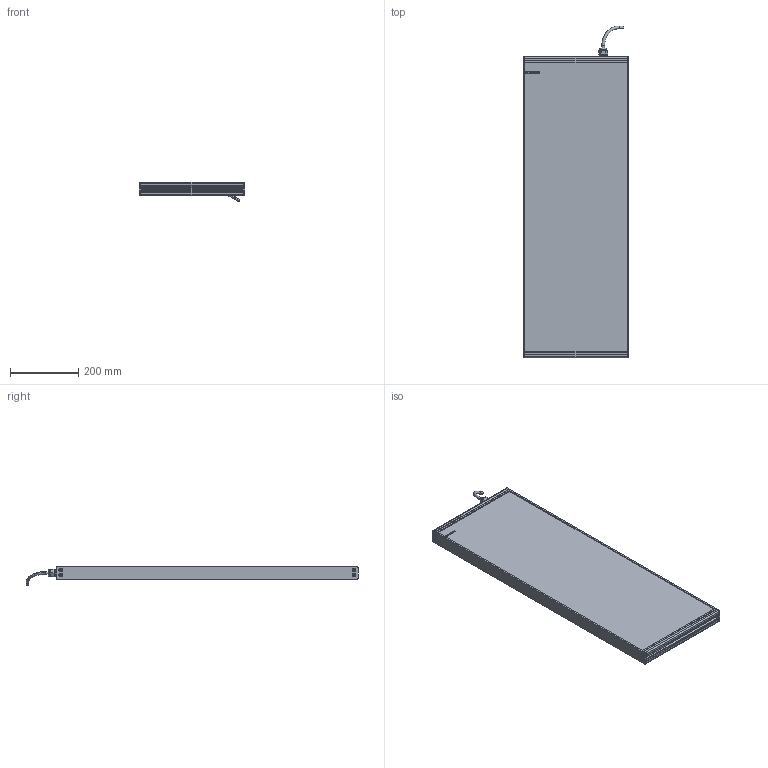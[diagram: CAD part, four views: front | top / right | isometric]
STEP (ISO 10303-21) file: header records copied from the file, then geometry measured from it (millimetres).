
FILE_DESCRIPTION (( 'STEP AP214' ), '1' );
FILE_NAME ('EFFI-BL-300T-850-1M12P.STEP', '2021-06-28T09:51:02', ( '' ), ( '' ), 'SwSTEP 2.0', 'SolidWorks 2021', '' );
FILE_SCHEMA (( 'AUTOMOTIVE_DESIGN' ));
Length unit declared in the file: millimetre
Products named in the file (7): 003776; profile modif_lg 99.5 mm; EFFI-BL-300T-850-1M12P; bord fin modif_lg 436.5 mm; M12 power; Pièce2^EFFI-BL-XXXT-YYY + M12P
Assembly tree (14 placements, depth 2):
  EFFI-BL-300T-850-1M12P
    profile modif_lg 99.5 mm
    bord fin modif_lg 436.5 mm  x2
    Pièce2^EFFI-BL-XXXT-YYY + M12P
    profile modif_lg 99.5 mm
    M12 power
    003776  x8
Bounding box: 310 x 976.45 x 58.14 mm (x, y, z)
Volume: 9514959 mm3; surface area: 846909.4 mm2
Topology: 13 solids, 16 shells, 569 faces, 1446 edges, 927 vertices
Faces by surface type: plane 327, bspline 125, cylinder 95, cone 18, torus 4
Entity records: 15286 total; most frequent: CARTESIAN_POINT 5076, ORIENTED_EDGE 2024, DIRECTION 1720, EDGE_CURVE 1014, LINE 756, VECTOR 756, VERTEX_POINT 670, AXIS2_PLACEMENT_3D 482
